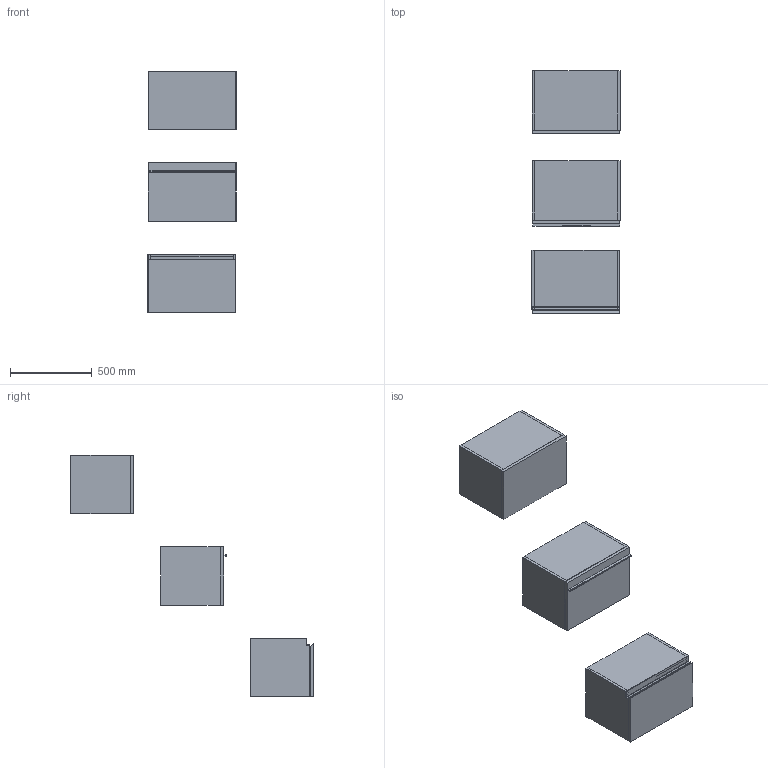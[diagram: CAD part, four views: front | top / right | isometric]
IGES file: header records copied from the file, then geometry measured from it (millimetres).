
Start section: Data from Parasolid IGES Translator 19.0.9, Copyright(c) 2006 Siemens PL M Software. All Rights Reserved.
Global section: file name: noorth-SI-H 36 D 38,8 W 54_8333.igs; native system: By Siemens PLM Incorporated; preprocessor: XPlus GENERIC/IGES 19.0.9; author: Noname; organization: Noname; date: 20200530.132933; units: metre
Bounding box: 541.02 x 1485.1 x 1480 mm (x, y, z)
Volume: 42379169.3 mm3; surface area: 6412122.4 mm2
Topology: 20 solids, 20 shells, 178 faces, 382 edges, 234 vertices
Faces by surface type: plane 134, extrusion 16, bspline 16, cylinder 12
